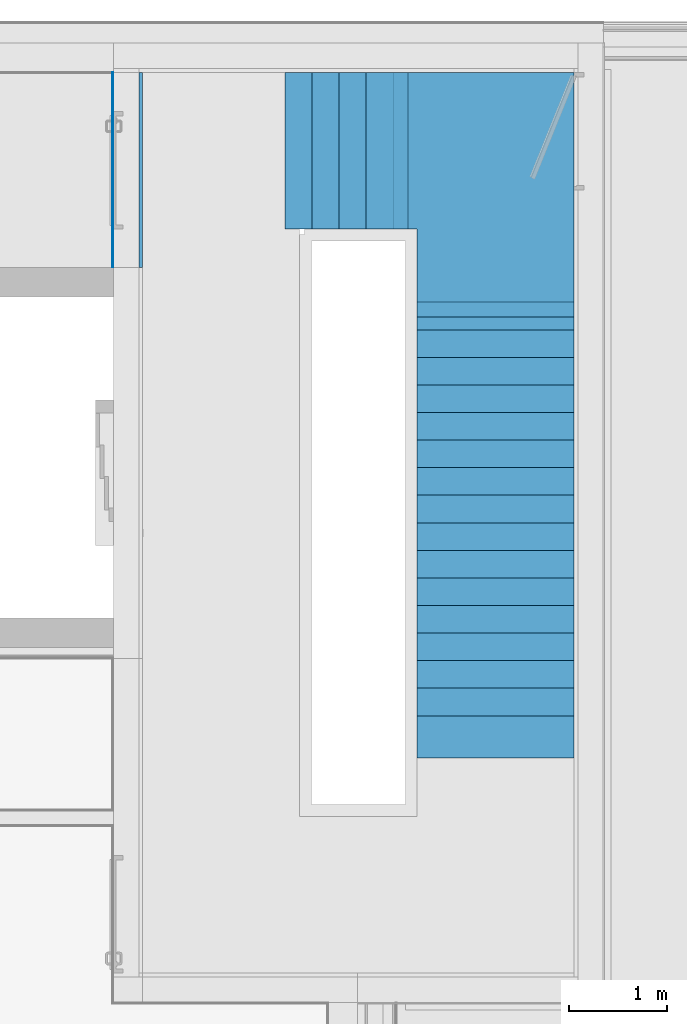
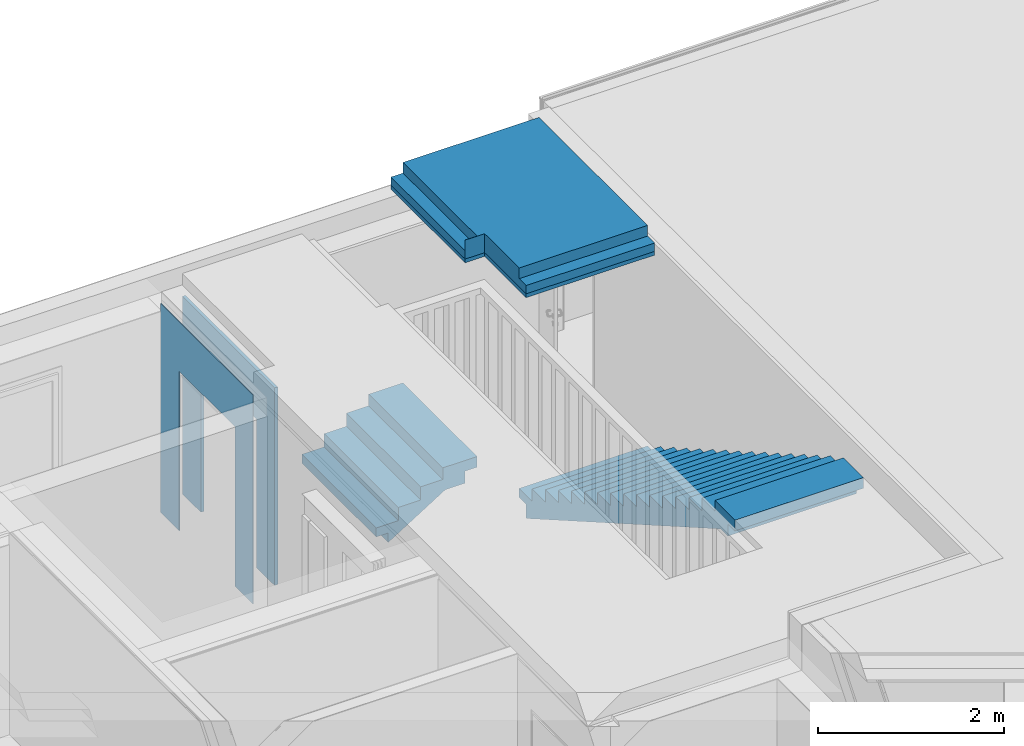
# One storey, part 15 of 34: 6 building element parts, 1 opening, 4 elements without a shape of their own.
"""IFC4 building model written with IfcOpenShell, lengths in millimetres."""

from ifc_helpers import new_model, entity, si_unit, converted_unit, derived_unit, direction, frame, origin_with_axes, place, context, subcontext, project, spatial, polygons, material, type_object, element, aggregate, save


model = new_model("IFC4")

# Units and contexts
model_context = context("Model", 3, precision=0.01, world=origin_with_axes(), true_north=direction((0.0, 1.0)))
body_context = subcontext(model_context, "Body", "Model", "MODEL_VIEW")
ifc_project = project(units=[si_unit("LENGTHUNIT", "METRE", prefix="MILLI"), si_unit("AREAUNIT", "SQUARE_METRE"), si_unit("VOLUMEUNIT", "CUBIC_METRE"), converted_unit("PLANEANGLEUNIT", "DEGREE", entity("IfcPlaneAngleMeasure", 0.0174532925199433), si_unit("PLANEANGLEUNIT", "RADIAN"), dimensions=[0, 0, 0, 0, 0, 0, 0]), converted_unit("TIMEUNIT", "Year", entity("IfcTimeMeasure", 31557600.0), si_unit("TIMEUNIT", "SECOND"), dimensions=[0, 0, 1, 0, 0, 0, 0]), si_unit("MASSUNIT", "GRAM", prefix="KILO"), si_unit("THERMODYNAMICTEMPERATUREUNIT", "DEGREE_CELSIUS"), si_unit("LUMINOUSINTENSITYUNIT", "LUMEN"), si_unit("ENERGYUNIT", "JOULE", prefix="MEGA"), derived_unit("THERMALCONDUCTANCEUNIT", [(si_unit("POWERUNIT", "WATT"), 1), (si_unit("LENGTHUNIT", "METRE"), -1), (si_unit("THERMODYNAMICTEMPERATUREUNIT", "KELVIN"), -1)]), derived_unit("SPECIFICHEATCAPACITYUNIT", [(si_unit("ENERGYUNIT", "JOULE"), 1), (si_unit("MASSUNIT", "GRAM", prefix="KILO"), -1), (si_unit("THERMODYNAMICTEMPERATUREUNIT", "KELVIN"), -1)]), derived_unit("MASSDENSITYUNIT", [(si_unit("MASSUNIT", "GRAM", prefix="KILO"), 1), (si_unit("VOLUMEUNIT", "CUBIC_METRE"), -1)])], contexts=[model_context])

# Site, building, storey
site_placement = place(None, origin_with_axes())
site = spatial("IfcSite", under=ifc_project, at=site_placement, Name="Gelände", CompositionType="ELEMENT")
building_placement = place(site_placement, origin_with_axes())
building = spatial("IfcBuilding", under=site, at=building_placement, Name="Gebäude", CompositionType="ELEMENT")
storey_placement = place(building_placement, frame((0.0, 0.0, 2900.0), z_axis=(0.0, 0.0, 1.0), x_axis=(1.0, 0.0, 0.0)))
storey = spatial("IfcBuildingStorey", under=building, at=storey_placement, Name="1.OG", CompositionType="ELEMENT", Elevation=2900.0)

# Plate, building element parts
plate_type = type_object("IfcPlateType", Name="Podest Typ 01 300", PredefinedType="NOTDEFINED")
plate_placement = place(storey_placement, frame((18285.42683944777, 37437.5972813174, 3550.0), z_axis=(0.0, 0.0, 1.0), x_axis=(1.0, 0.0, 0.0)))
plate = element("IfcPlate", 1, at=plate_placement, inside=storey, type_object=plate_type, Name="Deckennr.-073", PredefinedType="NOTDEFINED")
ifc_material_1 = material(Name="Beton bewehrt")
building_element_part_1_placement = place(plate_placement, origin_with_axes())
building_element_part_1 = element("IfcBuildingElementPart", 2, at=building_element_part_1_placement, material=ifc_material_1, Name="Beton bewehrt", PredefinedType="NOTDEFINED", context=body_context, shape_type="Tessellation", body=[
    polygons([(243.5705982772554, -2344.999999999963, 0.0), (243.5705982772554, -2344.999994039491, -139.9999999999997), (1843.570598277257, -2344.999994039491, -139.9999999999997), (1843.570598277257, -2344.999999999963, 0.0), (243.5705982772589, -1600.000000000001, 0.0), (243.5705982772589, -1600.000000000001, -250.0), (243.5705982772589, -2494.999999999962, -250.0), (243.5705982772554, -2494.999994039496, -139.9999999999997), (1843.570598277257, -2494.999994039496, -139.9999999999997), (1843.570605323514, -2494.999999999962, -250.0), (1843.570605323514, 0.0, -250.0), (1843.570605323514, 0.0, 0.0), (150.6441332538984, 0.0, 0.0), (150.6441332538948, -1597.318531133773, 0.0), (0.0, -1597.318531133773, 0.0), (0.0, -1600.000000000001, 0.0), (0.0, -1600.000000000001, -250.0), (0.0, -1597.318531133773, -250.0), (0.6441332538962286, -1597.318531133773, -250.0), (0.6441332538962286, 0.0, -250.0), (0.6441332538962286, 0.0, -140.0000000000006), (150.6441332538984, 0.0, -140.0000000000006), (150.6441332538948, -1597.318531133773, -140.0000000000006), (0.6441332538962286, -1597.318531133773, -140.0000000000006)], [[[1, 2, 3, 4]], [[2, 1, 5, 6, 7, 8]], [[9, 3, 2, 8]], [[3, 9, 10, 11, 12, 4]], [[1, 4, 12, 13, 14, 15, 16, 5]], [[16, 17, 6, 5]], [[18, 19, 20, 11, 10, 7, 6, 17]], [[9, 8, 7, 10]], [[20, 21, 22, 13, 12, 11]], [[23, 14, 13, 22]], [[18, 15, 14, 23, 24, 19]], [[16, 15, 18, 17]], [[24, 21, 20, 19]], [[23, 22, 21, 24]]], closed=True),
])
ifc_material_2 = material(Name="Sichtbeton")
building_element_part_2_placement = place(plate_placement, origin_with_axes())
building_element_part_2 = element("IfcBuildingElementPart", 3, at=building_element_part_2_placement, material=ifc_material_2, Name="Sichtbeton", PredefinedType="NOTDEFINED", context=body_context, shape_type="Tessellation", body=[
    polygons([(1843.570605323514, 0.0, -299.9999999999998), (0.6441332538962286, 0.0, -300.0000000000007), (0.6441332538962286, 0.0, -250.0), (1843.570605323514, 0.0, -250.0), (0.0, -1597.318531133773, -300.0000000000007), (0.6441332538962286, -1597.318531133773, -300.0000000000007), (1843.570605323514, -2494.999999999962, -299.9999999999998), (243.5705982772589, -2494.999999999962, -299.9999999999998), (243.5705982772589, -1600.000000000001, -299.9999999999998), (0.0, -1600.000000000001, -299.9999999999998), (0.6441332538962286, -1597.318531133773, -250.0), (0.0, -1597.318531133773, -250.0), (0.0, -1600.000000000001, -250.0), (243.5705982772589, -1600.000000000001, -250.0), (243.5705982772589, -2494.999999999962, -250.0), (1843.570605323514, -2494.999999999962, -250.0)], [[[1, 2, 3, 4]], [[5, 6, 2, 1, 7, 8, 9, 10]], [[6, 11, 3, 2]], [[3, 11, 12, 13, 14, 15, 16, 4]], [[4, 16, 7, 1]], [[5, 12, 11, 6]], [[16, 15, 8, 7]], [[15, 14, 9, 8]], [[14, 13, 10, 9]], [[13, 12, 5, 10]]], closed=True),
])
aggregate(plate, [building_element_part_1, building_element_part_2])

# Stair, building element part
stair_type = type_object("IfcStairType", Name="Treppentyp", PredefinedType="NOTDEFINED")
stair_1_placement = place(storey_placement, frame((17178.99744477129, 37437.59728330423, 150.0000000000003), z_axis=(0.0, 0.0, 1.0), x_axis=(-1.0, 0.0, 0.0)))
stair_1 = element("IfcStair", 4, at=stair_1_placement, inside=storey, type_object=stair_type, Name="Treppe-001", PredefinedType="NOTDEFINED")
building_element_part_3_placement = place(stair_1_placement, origin_with_axes())
building_element_part_3 = element("IfcBuildingElementPart", 5, at=building_element_part_3_placement, PredefinedType="NOTDEFINED", context=body_context, shape_type="Tessellation", body=[
    polygons([(-1106.429394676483, 1600.0, 359.9999999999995), (-1256.429394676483, 1600.0, 359.9999999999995), (-1256.429394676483, 1600.0, 499.9999999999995), (-829.822046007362, 1600.0, 499.9999999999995), (-829.822046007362, 1600.0, 346.6666666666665), (-553.2146973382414, 1600.0, 346.6666666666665), (-553.2146973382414, 1600.0, 173.3333333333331), (-276.6073486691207, 1600.0, 173.3333333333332), (-276.6073486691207, 1600.0, 0.0), (0.0, 1600.0, 0.0), (0.0, 1600.0, -120.0), (-150.0, 1600.0, -120.0), (-150.0, 1600.0, -244.5537770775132), (-184.4048991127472, 1600.0, -222.9942781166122), (-276.6073486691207, 1600.0, -165.2165003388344), (-368.8097982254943, 1600.0, -107.4387225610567), (-461.0122477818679, 1600.0, -49.66094478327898), (-553.2146973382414, 1600.0, 8.116832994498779), (-645.4171468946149, 1600.0, 65.89461077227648), (-737.6195964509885, 1600.0, 123.6723885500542), (-829.822046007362, 1600.0, 181.450166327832), (-859.4240862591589, 1600.0, 199.9999999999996), (-1106.429394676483, 1600.0, 199.9999999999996), (-1106.429394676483, 0.0, 359.9999999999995), (-1256.429394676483, 0.0, 359.9999999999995), (-1256.429394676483, 0.0, 499.9999999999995), (-829.822046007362, 0.0, 499.9999999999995), (-829.822046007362, 0.0, 346.6666666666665), (-553.2146973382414, 0.0, 346.6666666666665), (-553.2146973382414, 0.0, 173.3333333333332), (-276.6073486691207, 0.0, 173.3333333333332), (-276.6073486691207, 0.0, 0.0), (0.0, 0.0, 0.0), (0.0, 0.0, -120.0), (-150.0, 0.0, -120.0), (-150.0, 0.0, -244.5537770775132), (-184.4048991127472, 0.0, -222.9942781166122), (-276.6073486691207, 0.0, -165.2165003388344), (-368.8097982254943, 0.0, -107.4387225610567), (-461.0122477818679, 0.0, -49.66094478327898), (-553.2146973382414, 0.0, 8.116832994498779), (-645.4171468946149, 0.0, 65.89461077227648), (-737.6195964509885, 0.0, 123.6723885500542), (-829.822046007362, 0.0, 181.450166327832), (-859.4240862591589, 0.0, 199.9999999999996), (-1106.429394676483, 0.0, 199.9999999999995)], [[[1, 2, 3, 4, 5, 6, 7, 8, 9, 10, 11, 12, 13, 14, 15, 16, 17, 18, 19, 20, 21, 22, 23]], [[2, 1, 24, 25]], [[2, 25, 26, 3]], [[3, 26, 27, 4]], [[27, 28, 5, 4]], [[29, 6, 5, 28]], [[6, 29, 30, 7]], [[31, 8, 7, 30]], [[8, 31, 32, 9]], [[33, 10, 9, 32]], [[34, 11, 10, 33]], [[12, 11, 34, 35]], [[13, 12, 35, 36]], [[13, 36, 37, 14]], [[38, 15, 14, 37]], [[39, 16, 15, 38]], [[40, 17, 16, 39]], [[41, 18, 17, 40]], [[42, 19, 18, 41]], [[43, 20, 19, 42]], [[44, 21, 20, 43]], [[22, 21, 44, 45]], [[46, 23, 22, 45]], [[1, 23, 46, 24]], [[24, 46, 45, 44, 43, 42, 41, 40, 39, 38, 37, 36, 35, 34, 33, 32, 31, 30, 29, 28, 27, 26, 25]]], closed=True),
])
aggregate(stair_1, [building_element_part_3])

stair_2_placement = place(storey_placement, frame((20128.99743772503, 35092.59728131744, 649.9999999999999), z_axis=(0.0, 0.0, 1.0), x_axis=(1.0, 0.0, 0.0)))
stair_2 = element("IfcStair", 6, at=stair_2_placement, inside=storey, type_object=stair_type, Name="Treppe-001", PredefinedType="NOTDEFINED")
building_element_part_4_placement = place(stair_2_placement, origin_with_axes())
building_element_part_4 = element("IfcBuildingElementPart", 7, at=building_element_part_4_placement, material=ifc_material_1, Name="Beton bewehrt", PredefinedType="NOTDEFINED", context=body_context, shape_type="Tessellation", body=[
    polygons([(0.0, -4500.000000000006, 2260.0), (0.0, -4500.000000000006, 2100.0), (0.0, -4344.096170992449, 2100.0), (0.0, -4312.500000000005, 2081.87550013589), (0.0, -4218.750000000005, 2028.097722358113), (0.0, -4125.000000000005, 1974.319944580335), (0.0, -4031.250000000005, 1920.542166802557), (0.0, -3937.500000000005, 1866.764389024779), (0.0, -3843.750000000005, 1812.986611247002), (0.0, -3750.000000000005, 1759.208833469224), (0.0, -3656.250000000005, 1705.431055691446), (0.0, -3562.500000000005, 1651.653277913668), (0.0, -3468.750000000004, 1597.87550013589), (0.0, -3375.000000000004, 1544.097722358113), (0.0, -3281.250000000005, 1490.319944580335), (0.0, -3187.500000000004, 1436.542166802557), (0.0, -3093.750000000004, 1382.764389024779), (0.0, -3000.000000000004, 1328.986611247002), (0.0, -2906.250000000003, 1275.208833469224), (0.0, -2812.500000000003, 1221.431055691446), (0.0, -2718.750000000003, 1167.653277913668), (0.0, -2625.000000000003, 1113.87550013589), (0.0, -2531.250000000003, 1060.097722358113), (0.0, -2437.500000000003, 1006.319944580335), (0.0, -2343.750000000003, 952.5421668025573), (0.0, -2250.000000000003, 898.7643890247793), (0.0, -2156.250000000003, 844.9866112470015), (0.0, -2062.500000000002, 791.2088334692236), (0.0, -1968.750000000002, 737.4310556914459), (0.0, -1875.000000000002, 683.6532779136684), (0.0, -1781.250000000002, 629.8755001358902), (0.0, -1687.500000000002, 576.0977223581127), (0.0, -1593.750000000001, 522.3199445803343), (0.0, -1500.000000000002, 468.5421668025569), (0.0, -1406.250000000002, 414.7643890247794), (0.0, -1312.500000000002, 360.9866112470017), (0.0, -1218.750000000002, 307.208833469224), (0.0, -1125.000000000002, 253.4310556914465), (0.0, -1031.250000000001, 199.6532779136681), (0.0, -937.5000000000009, 145.8755001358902), (0.0, -843.7500000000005, 92.0977223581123), (0.0, -750.0000000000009, 38.31994458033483), (0.0, -656.2500000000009, -15.45783319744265), (0.0, -562.5000000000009, -69.23561097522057), (0.0, -468.7500000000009, -123.0133887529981), (0.0, -375.0, -176.7911665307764), (0.0, -281.25, -230.5689443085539), (0.0, -187.5, -284.3467220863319), (0.0, -160.2118734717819, -300.0000000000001), (0.0, -149.9999999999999, -300.0000000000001), (0.0, -149.9999999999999, -120.0000000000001), (0.0, 0.0, -120.0000000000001), (0.0, 0.0, 0.0), (0.0, -281.25, 0.0), (0.0, -281.25, 161.3333333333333), (0.0, -562.5000000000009, 161.3333333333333), (0.0, -562.5000000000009, 322.6666666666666), (0.0, -843.7500000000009, 322.6666666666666), (0.0, -843.7500000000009, 484.0), (0.0, -1125.000000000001, 484.0), (0.0, -1125.000000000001, 645.3333333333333), (0.0, -1406.250000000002, 645.3333333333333), (0.0, -1406.250000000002, 806.6666666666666), (0.0, -1687.500000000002, 806.6666666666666), (0.0, -1687.500000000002, 968.0), (0.0, -1968.750000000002, 968.0), (0.0, -1968.750000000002, 1129.333333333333), (0.0, -2250.000000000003, 1129.333333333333), (0.0, -2250.000000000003, 1290.666666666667), (0.0, -2531.250000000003, 1290.666666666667), (0.0, -2531.250000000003, 1452.0), (0.0, -2812.500000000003, 1452.0), (0.0, -2812.500000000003, 1613.333333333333), (0.0, -3093.750000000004, 1613.333333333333), (0.0, -3093.750000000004, 1774.666666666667), (0.0, -3375.000000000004, 1774.666666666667), (0.0, -3375.000000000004, 1936.0), (0.0, -3656.250000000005, 1936.0), (0.0, -3656.250000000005, 2097.333333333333), (0.0, -3937.500000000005, 2097.333333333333), (0.0, -3937.500000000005, 2258.666666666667), (0.0, -4218.750000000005, 2258.666666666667), (0.0, -4218.750000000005, 2400.0), (0.0, -4650.000000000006, 2400.0), (0.0, -4650.000000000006, 2260.0), (-1600.0, -4500.000000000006, 2260.0), (-1600.0, -4500.000000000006, 2100.0), (-1600.0, -4344.096170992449, 2100.0), (-1600.0, -4312.500000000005, 2081.87550013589), (-1600.0, -4218.750000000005, 2028.097722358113), (-1600.0, -4125.000000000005, 1974.319944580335), (-1600.0, -4031.250000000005, 1920.542166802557), (-1600.0, -3937.500000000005, 1866.764389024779), (-1600.0, -3843.750000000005, 1812.986611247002), (-1600.0, -3750.000000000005, 1759.208833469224), (-1600.0, -3656.250000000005, 1705.431055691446), (-1600.0, -3562.500000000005, 1651.653277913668), (-1600.0, -3468.750000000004, 1597.87550013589), (-1600.0, -3375.000000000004, 1544.097722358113), (-1600.0, -3281.250000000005, 1490.319944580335), (-1600.0, -3187.500000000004, 1436.542166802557), (-1600.0, -3093.750000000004, 1382.764389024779), (-1600.0, -3000.000000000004, 1328.986611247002), (-1600.0, -2906.250000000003, 1275.208833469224), (-1600.0, -2812.500000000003, 1221.431055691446), (-1600.0, -2718.750000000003, 1167.653277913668), (-1600.0, -2625.000000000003, 1113.87550013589), (-1600.0, -2531.250000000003, 1060.097722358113), (-1600.0, -2437.500000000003, 1006.319944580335), (-1600.0, -2343.750000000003, 952.5421668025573), (-1600.0, -2250.000000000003, 898.7643890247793), (-1600.0, -2156.250000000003, 844.9866112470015), (-1600.0, -2062.500000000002, 791.2088334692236), (-1600.0, -1968.750000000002, 737.4310556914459), (-1600.0, -1875.000000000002, 683.6532779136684), (-1600.0, -1781.250000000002, 629.8755001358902), (-1600.0, -1687.500000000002, 576.0977223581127), (-1600.0, -1593.750000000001, 522.3199445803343), (-1600.0, -1500.000000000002, 468.5421668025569), (-1600.0, -1406.250000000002, 414.7643890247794), (-1600.0, -1312.500000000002, 360.9866112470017), (-1600.0, -1218.750000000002, 307.208833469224), (-1600.0, -1125.000000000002, 253.4310556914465), (-1600.0, -1031.250000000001, 199.6532779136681), (-1600.0, -937.5000000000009, 145.8755001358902), (-1600.0, -843.7500000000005, 92.0977223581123), (-1600.0, -750.0000000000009, 38.31994458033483), (-1600.0, -656.2500000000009, -15.45783319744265), (-1600.0, -562.5000000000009, -69.23561097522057), (-1600.0, -468.7500000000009, -123.0133887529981), (-1600.0, -375.0, -176.7911665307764), (-1600.0, -281.25, -230.5689443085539), (-1600.0, -187.5, -284.3467220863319), (-1600.0, -160.2118734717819, -300.0000000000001), (-1600.0, -149.9999999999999, -300.0000000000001), (-1600.0, -149.9999999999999, -120.0000000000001), (-1600.0, 0.0, -120.0000000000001), (-1600.0, 0.0, 0.0), (-1600.0, -281.25, 0.0), (-1600.0, -281.25, 161.3333333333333), (-1600.0, -562.5000000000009, 161.3333333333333), (-1600.0, -562.5000000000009, 322.6666666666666), (-1600.0, -843.7500000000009, 322.6666666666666), (-1600.0, -843.7500000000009, 484.0), (-1600.0, -1125.000000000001, 484.0), (-1600.0, -1125.000000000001, 645.3333333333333), (-1600.0, -1406.250000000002, 645.3333333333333), (-1600.0, -1406.250000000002, 806.6666666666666), (-1600.0, -1687.500000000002, 806.6666666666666), (-1600.0, -1687.500000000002, 968.0), (-1600.0, -1968.750000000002, 968.0), (-1600.0, -1968.750000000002, 1129.333333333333), (-1600.0, -2250.000000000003, 1129.333333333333), (-1600.0, -2250.000000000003, 1290.666666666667), (-1600.0, -2531.250000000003, 1290.666666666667), (-1600.0, -2531.250000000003, 1452.0), (-1600.0, -2812.500000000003, 1452.0), (-1600.0, -2812.500000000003, 1613.333333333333), (-1600.0, -3093.750000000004, 1613.333333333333), (-1600.0, -3093.750000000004, 1774.666666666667), (-1600.0, -3375.000000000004, 1774.666666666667), (-1600.0, -3375.000000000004, 1936.0), (-1600.0, -3656.250000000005, 1936.0), (-1600.0, -3656.250000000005, 2097.333333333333), (-1600.0, -3937.500000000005, 2097.333333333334), (-1600.0, -3937.500000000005, 2258.666666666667), (-1600.0, -4218.750000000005, 2258.666666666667), (-1600.0, -4218.750000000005, 2400.0), (-1600.0, -4650.000000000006, 2400.0), (-1600.0, -4650.000000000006, 2260.0)], [[[1, 2, 3, 4, 5, 6, 7, 8, 9, 10, 11, 12, 13, 14, 15, 16, 17, 18, 19, 20, 21, 22, 23, 24, 25, 26, 27, 28, 29, 30, 31, 32, 33, 34, 35, 36, 37, 38, 39, 40, 41, 42, 43, 44, 45, 46, 47, 48, 49, 50, 51, 52, 53, 54, 55, 56, 57, 58, 59, 60, 61, 62, 63, 64, 65, 66, 67, 68, 69, 70, 71, 72, 73, 74, 75, 76, 77, 78, 79, 80, 81, 82, 83, 84, 85]], [[2, 1, 86, 87]], [[2, 87, 88, 3]], [[88, 89, 4, 3]], [[90, 5, 4, 89]], [[91, 6, 5, 90]], [[92, 7, 6, 91]], [[93, 8, 7, 92]], [[94, 9, 8, 93]], [[95, 10, 9, 94]], [[96, 11, 10, 95]], [[97, 12, 11, 96]], [[98, 13, 12, 97]], [[99, 14, 13, 98]], [[100, 15, 14, 99]], [[101, 16, 15, 100]], [[102, 17, 16, 101]], [[103, 18, 17, 102]], [[104, 19, 18, 103]], [[105, 20, 19, 104]], [[106, 21, 20, 105]], [[107, 22, 21, 106]], [[108, 23, 22, 107]], [[109, 24, 23, 108]], [[110, 25, 24, 109]], [[111, 26, 25, 110]], [[112, 27, 26, 111]], [[113, 28, 27, 112]], [[114, 29, 28, 113]], [[115, 30, 29, 114]], [[116, 31, 30, 115]], [[117, 32, 31, 116]], [[118, 33, 32, 117]], [[119, 34, 33, 118]], [[120, 35, 34, 119]], [[121, 36, 35, 120]], [[122, 37, 36, 121]], [[123, 38, 37, 122]], [[124, 39, 38, 123]], [[125, 40, 39, 124]], [[126, 41, 40, 125]], [[127, 42, 41, 126]], [[128, 43, 42, 127]], [[129, 44, 43, 128]], [[130, 45, 44, 129]], [[131, 46, 45, 130]], [[132, 47, 46, 131]], [[133, 48, 47, 132]], [[134, 49, 48, 133]], [[135, 50, 49, 134]], [[51, 50, 135, 136]], [[137, 52, 51, 136]], [[52, 137, 138, 53]], [[139, 54, 53, 138]], [[54, 139, 140, 55]], [[141, 56, 55, 140]], [[56, 141, 142, 57]], [[143, 58, 57, 142]], [[58, 143, 144, 59]], [[145, 60, 59, 144]], [[60, 145, 146, 61]], [[147, 62, 61, 146]], [[62, 147, 148, 63]], [[149, 64, 63, 148]], [[64, 149, 150, 65]], [[151, 66, 65, 150]], [[66, 151, 152, 67]], [[153, 68, 67, 152]], [[68, 153, 154, 69]], [[155, 70, 69, 154]], [[70, 155, 156, 71]], [[157, 72, 71, 156]], [[72, 157, 158, 73]], [[159, 74, 73, 158]], [[74, 159, 160, 75]], [[161, 76, 75, 160]], [[76, 161, 162, 77]], [[163, 78, 77, 162]], [[78, 163, 164, 79]], [[165, 80, 79, 164]], [[80, 165, 166, 81]], [[167, 82, 81, 166]], [[167, 168, 83, 82]], [[83, 168, 169, 84]], [[170, 85, 84, 169]], [[1, 85, 170, 86]], [[86, 170, 169, 168, 167, 166, 165, 164, 163, 162, 161, 160, 159, 158, 157, 156, 155, 154, 153, 152, 151, 150, 149, 148, 147, 146, 145, 144, 143, 142, 141, 140, 139, 138, 137, 136, 135, 134, 133, 132, 131, 130, 129, 128, 127, 126, 125, 124, 123, 122, 121, 120, 119, 118, 117, 116, 115, 114, 113, 112, 111, 110, 109, 108, 107, 106, 105, 104, 103, 102, 101, 100, 99, 98, 97, 96, 95, 94, 93, 92, 91, 90, 89, 88, 87]]], closed=True),
])
aggregate(stair_2, [building_element_part_4])

# Wall, opening, building element parts
wall_type = type_object("IfcWallType", Name="Innenwand Typ 10 310", PredefinedType="NOTDEFINED")
wall_placement = place(storey_placement, frame((15728.99744477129, 37437.59728131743, 0.0), z_axis=(0.0, 0.0, 1.0), x_axis=(0.0, -1.0, 0.0)))
wall = element("IfcWall", 8, at=wall_placement, inside=storey, type_object=wall_type, Name="Wand-014", PredefinedType="NOTDEFINED")
opening_placement = place(wall_placement, frame((1000.0, 0.0, 0.0), z_axis=(0.0, 0.0, 1.0), x_axis=(1.0, 0.0, 0.0)))
element("IfcOpeningElement", 9, at=opening_placement, cuts=wall, Name="Tür-011", context=body_context, identifier="Reference", shape_type="Tessellation", body=[
    polygons([(600.0000000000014, -300.0000000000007, 2100.0), (-600.0000000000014, -300.0000000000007, 2100.0), (-600.0000000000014, -310.9999999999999, 2100.0), (600.0000000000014, -310.9999999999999, 2100.0), (600.0000000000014, 1.000000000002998, 2100.0), (-600.0000000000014, 1.000000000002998, 2100.0), (-600.0000000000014, -300.0000000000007, 0.0), (-600.0000000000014, -310.9999999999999, 0.0), (600.0000000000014, -310.9999999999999, 0.0), (600.0000000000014, -300.0000000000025, 0.0), (600.0000000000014, 1.000000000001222, 0.0), (-600.0000000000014, 1.000000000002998, 0.0)], [[[1, 2, 3, 4]], [[2, 1, 5, 6]], [[2, 7, 8, 3]], [[3, 8, 9, 4]], [[10, 1, 4, 9]], [[1, 10, 11, 5]], [[5, 11, 12, 6]], [[7, 2, 6, 12]], [[7, 10, 9, 8]], [[10, 7, 12, 11]]], closed=True),
])
building_element_part_5_placement = place(wall_placement, origin_with_axes())
building_element_part_5 = element("IfcBuildingElementPart", 10, at=building_element_part_5_placement, material=ifc_material_2, Name="Sichtbeton", PredefinedType="NOTDEFINED", context=body_context, shape_type="Tessellation", body=[
    polygons([(1600.000000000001, 0.0, 149.9999999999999), (1600.000000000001, 0.0, 2100.0), (399.9999999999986, 0.0, 2100.0), (399.9999999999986, 0.0, 149.9999999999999), (-1.986798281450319e-06, 0.0, 149.9999999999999), (0.0, 0.0, 2649.999999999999), (0.0, 0.0, 2749.999999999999), (1990.000000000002, 0.0, 2750.000000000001), (1990.000000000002, 0.0, 149.9999999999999), (1600.000000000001, -40.00000000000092, 149.9999999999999), (1600.000000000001, -39.99999999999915, 2100.0), (399.9999999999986, -39.99999999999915, 2100.0), (399.9999999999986, -39.99999999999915, 149.9999999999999), (-1.986798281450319e-06, -39.99999999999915, 149.9999999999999), (0.0, -39.99999999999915, 2749.999999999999), (1990.000000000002, -40.00000000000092, 2750.000000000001), (1990.000000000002, -40.00000000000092, 149.9999999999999)], [[[1, 2, 3, 4, 5, 6, 7, 8, 9]], [[2, 1, 10, 11]], [[3, 2, 11, 12]], [[4, 3, 12, 13]], [[4, 13, 14, 5]], [[15, 7, 6, 5, 14]], [[8, 7, 15, 16]], [[9, 8, 16, 17]], [[10, 1, 9, 17]], [[11, 10, 17, 16, 15, 14, 13, 12]]], closed=True),
])
ifc_material_3 = material(Name="Kalkzementputz Aussen")
building_element_part_6_placement = place(wall_placement, origin_with_axes())
building_element_part_6 = element("IfcBuildingElementPart", 11, at=building_element_part_6_placement, material=ifc_material_3, Name="Kalkzementputz Aussen", PredefinedType="NOTDEFINED", context=body_context, shape_type="Tessellation", body=[
    polygons([(1600.000000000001, -300.0000000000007, 0.0), (1600.000000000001, -300.0000000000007, 2100.0), (399.9999999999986, -300.0000000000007, 2100.0), (399.9999999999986, -300.0000000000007, 0.0), (0.0, -300.0000000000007, 0.0), (0.0, -300.0000000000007, 2749.999999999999), (1990.000000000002, -300.0000000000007, 2750.000000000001), (1990.000000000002, -300.0000000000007, 0.0), (1600.000000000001, -310.0000000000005, 0.0), (1600.000000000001, -310.0000000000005, 2100.0), (399.9999999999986, -310.0000000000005, 2100.0), (399.9999999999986, -310.0000000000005, 0.0), (0.0, -310.0000000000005, 0.0), (0.0, -310.0000000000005, 2649.999999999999), (0.0, -310.0000000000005, 2749.999999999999), (1990.000000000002, -310.0000000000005, 2750.000000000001), (1990.000000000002, -310.0000000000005, 0.0)], [[[1, 2, 3, 4, 5, 6, 7, 8]], [[2, 1, 9, 10]], [[3, 2, 10, 11]], [[4, 3, 11, 12]], [[4, 12, 13, 5]], [[14, 15, 6, 5, 13]], [[6, 15, 16, 7]], [[17, 8, 7, 16]], [[9, 1, 8, 17]], [[10, 9, 17, 16, 15, 14, 13, 12, 11]]], closed=True),
])
aggregate(wall, [building_element_part_5, building_element_part_6])

save(model, "model.ifc")
